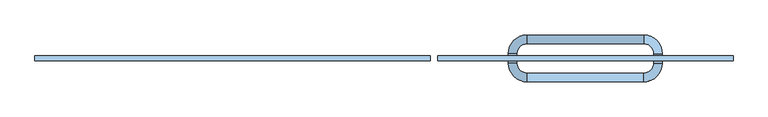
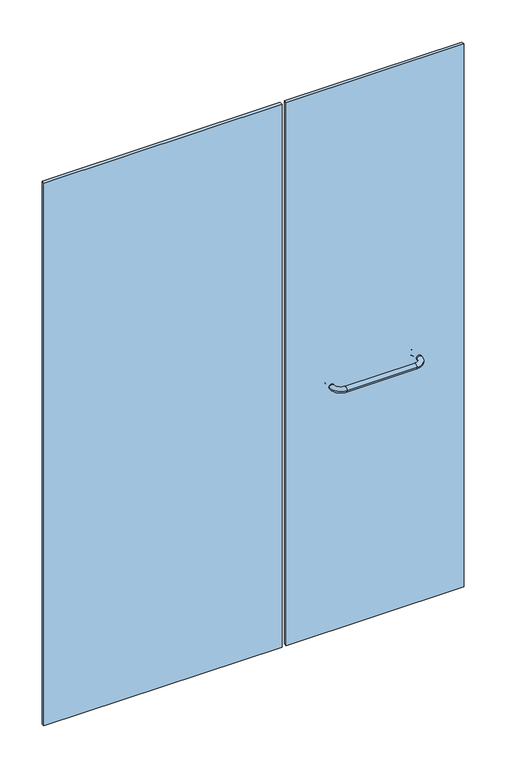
"""IFC4 building model written with IfcOpenShell, lengths in millimetres: window geometry, Baño 1 Puerta lateral - toallero simple : CA03-cancel baño-1.48."""

from ifc_helpers import new_model, si_unit, point, frame, origin, origin_with_axes, place, context, project, spatial, polyline, circle_curve, ellipse_curve, trimmed, outline, extrude, source, transform, mapped, element, save
from ifc_brep_helpers import cylinder_surface, revolved_surface, advanced_brep


def window_9f760435(model_context):
    return source(origin(), model_context, "Body", "SolidModel", [
        extrude(outline(polyline([(105.0, 5.5), (725.0, 5.5), (725.0, -5.5), (105.0, -5.5), (105.0, 5.5)])), origin_with_axes(), (0.0, 0.0, 1.0), 2000.0),
        extrude(outline(polyline([(-740.0, 5.5), (90.0, 5.5), (90.0, -5.5), (-740.0, -5.5), (-740.0, 5.5)])), origin_with_axes(), (0.0, 0.0, 1.0), 2000.0),
        advanced_brep(
        [(253.5, -10.0, 900.0), (271.5, -10.0, 900.0), (292.5, -31.0, 900.0), (292.5, -49.0, 900.0), (253.5, 10.0, 900.0), (271.5, 10.0, 900.0), (292.5, 49.0, 900.0), (292.5, 31.0, 900.0), (537.5, 49.0, 900.0), (537.5, 31.0, 900.0), (576.5, 10.0, 900.0), (558.5, 10.0, 900.0), (576.5, -10.0, 900.0), (558.5, -10.0, 900.0), (537.5, -49.0, 900.0), (537.5, -31.0, 900.0)],
        [
            (0, 1, circle_curve(frame((262.5, -10.0, 900.0), z_axis=(0.0, -1.0, 0.0), x_axis=(1.0, 0.0, 0.0)), 9.0)),
            (1, 2, circle_curve(frame((292.5, -10.0, 900.0), z_axis=(0.0, 0.0, 1.0), x_axis=(0.0, -1.0, 0.0)), 21.0)),
            (2, 3, circle_curve(frame((292.5, -40.0, 900.0), z_axis=(-1.0, 0.0, 0.0), x_axis=(0.0, 1.0, 0.0)), 9.0)),
            (3, 0, circle_curve(frame((292.5, -10.0, 900.0), z_axis=(0.0, 0.0, -1.0), x_axis=(0.0, -1.0, 0.0)), 39.0)),
            (1, 0, circle_curve(frame((262.5, -10.0, 900.0), z_axis=(0.0, -1.0, 0.0), x_axis=(1.0, 0.0, 0.0)), 9.0)),
            (3, 2, circle_curve(frame((292.5, -40.0, 900.0), z_axis=(-1.0, 0.0, 0.0), x_axis=(0.0, 1.0, 0.0)), 9.0)),
            (0, 4),
            (4, 5, circle_curve(frame((262.5, 10.0, 900.0), z_axis=(0.0, -1.0, 0.0), x_axis=(1.0, 0.0, 0.0)), 9.0)),
            (5, 1),
            (5, 4, circle_curve(frame((262.5, 10.0, 900.0), z_axis=(0.0, -1.0, 0.0), x_axis=(1.0, 0.0, 0.0)), 9.0)),
            (6, 7, circle_curve(frame((292.5, 40.0, 900.0), z_axis=(-1.0, 0.0, 0.0), x_axis=(0.0, -1.0, 0.0)), 9.0)),
            (7, 5, circle_curve(frame((292.5, 10.0, 900.0), z_axis=(0.0, 0.0, 1.0), x_axis=(-1.0, 0.0, 0.0)), 21.0)),
            (4, 6, circle_curve(frame((292.5, 10.0, 900.0), z_axis=(0.0, 0.0, -1.0), x_axis=(-1.0, 0.0, 0.0)), 39.0)),
            (7, 6, circle_curve(frame((292.5, 40.0, 900.0), z_axis=(-1.0, 0.0, 0.0), x_axis=(0.0, -1.0, 0.0)), 9.0)),
            (6, 8),
            (8, 9, circle_curve(frame((537.5, 40.0, 900.0), z_axis=(-1.0, 0.0, 0.0), x_axis=(0.0, -1.0, 0.0)), 9.0)),
            (9, 7),
            (9, 8, circle_curve(frame((537.5, 40.0, 900.0), z_axis=(-1.0, 0.0, 0.0), x_axis=(0.0, -1.0, 0.0)), 9.0)),
            (10, 11, circle_curve(frame((567.5, 10.0, 900.0), z_axis=(0.0, 1.0, 0.0), x_axis=(-1.0, 0.0, 0.0)), 9.0)),
            (11, 9, circle_curve(frame((537.5, 10.0, 900.0), z_axis=(0.0, 0.0, 1.0), x_axis=(0.0, 1.0, 0.0)), 21.0)),
            (8, 10, circle_curve(frame((537.5, 10.0, 900.0), z_axis=(0.0, 0.0, -1.0), x_axis=(0.0, 1.0, 0.0)), 39.0)),
            (11, 10, circle_curve(frame((567.5, 10.0, 900.0), z_axis=(0.0, 1.0, 0.0), x_axis=(-1.0, 0.0, 0.0)), 9.0)),
            (10, 12),
            (12, 13, circle_curve(frame((567.5, -10.0, 900.0), z_axis=(0.0, 1.0, 0.0), x_axis=(-1.0, 0.0, 0.0)), 9.0)),
            (13, 11),
            (13, 12, circle_curve(frame((567.5, -10.0, 900.0), z_axis=(0.0, 1.0, 0.0), x_axis=(-1.0, 0.0, 0.0)), 9.0)),
            (14, 15, circle_curve(frame((537.5, -40.0, 900.0), z_axis=(1.0, 0.0, 0.0), x_axis=(0.0, 1.0, 0.0)), 9.0)),
            (15, 13, circle_curve(frame((537.5, -10.0, 900.0), z_axis=(0.0, 0.0, 1.0), x_axis=(1.0, 0.0, 0.0)), 21.0)),
            (12, 14, circle_curve(frame((537.5, -10.0, 900.0), z_axis=(0.0, 0.0, -1.0), x_axis=(1.0, 0.0, 0.0)), 39.0)),
            (15, 14, circle_curve(frame((537.5, -40.0, 900.0), z_axis=(1.0, 0.0, 0.0), x_axis=(0.0, 1.0, 0.0)), 9.0)),
            (14, 3),
            (2, 15),
        ],
        [
            revolved_surface(trimmed(ellipse_curve(frame((292.5, -40.0, 900.0), z_axis=(-1.0, 0.0, 0.0), x_axis=(0.0, 1.0, 0.0)), 9.0, 9.0), [point((292.5, -31.0, 900.0))], [point((292.5, -49.0, 900.0))], True, "CARTESIAN"), (292.5, -10.0, 0.0), (0.0, 0.0, 1.0)),
            revolved_surface(trimmed(ellipse_curve(frame((292.5, -40.0, 900.0), z_axis=(-1.0, 0.0, 0.0), x_axis=(0.0, 1.0, 0.0)), 9.0, 9.0), [point((292.5, -49.0, 900.0))], [point((292.5, -31.0, 900.0))], True, "CARTESIAN"), (292.5, -10.0, 0.0), (0.0, 0.0, 1.0)),
            cylinder_surface(frame((262.5, -10.0, 900.0), z_axis=(0.0, -1.0, 0.0), x_axis=(1.0, 0.0, 0.0)), 9.0),
            revolved_surface(trimmed(ellipse_curve(frame((262.5, 10.0, 900.0), z_axis=(0.0, 1.0, 0.0), x_axis=(1.0, 0.0, 0.0)), 9.0, 9.0), [point((271.5, 10.0, 900.0))], [point((253.5, 10.0, 900.0))], True, "CARTESIAN"), (292.5, 10.0, 0.0), (0.0, 0.0, 1.0)),
            revolved_surface(trimmed(ellipse_curve(frame((262.5, 10.0, 900.0), z_axis=(0.0, 1.0, 0.0), x_axis=(1.0, 0.0, 0.0)), 9.0, 9.0), [point((253.5, 10.0, 900.0))], [point((271.5, 10.0, 900.0))], True, "CARTESIAN"), (292.5, 10.0, 0.0), (0.0, 0.0, 1.0)),
            cylinder_surface(frame((292.5, 40.0, 900.0), z_axis=(-1.0, 0.0, 0.0), x_axis=(0.0, -1.0, 0.0)), 9.0),
            revolved_surface(trimmed(ellipse_curve(frame((537.5, 40.0, 900.0), z_axis=(1.0, 0.0, 0.0), x_axis=(0.0, -1.0, 0.0)), 9.0, 9.0), [point((537.5, 31.0, 900.0))], [point((537.5, 49.0, 900.0))], True, "CARTESIAN"), (537.5, 10.0, 0.0), (0.0, 0.0, 1.0)),
            revolved_surface(trimmed(ellipse_curve(frame((537.5, 40.0, 900.0), z_axis=(1.0, 0.0, 0.0), x_axis=(0.0, -1.0, 0.0)), 9.0, 9.0), [point((537.5, 49.0, 900.0))], [point((537.5, 31.0, 900.0))], True, "CARTESIAN"), (537.5, 10.0, 0.0), (0.0, 0.0, 1.0)),
            cylinder_surface(frame((567.5, 10.0, 900.0), z_axis=(0.0, 1.0, 0.0), x_axis=(-1.0, 0.0, 0.0)), 9.0),
            revolved_surface(trimmed(ellipse_curve(frame((567.5, -10.0, 900.0), z_axis=(0.0, -1.0, 0.0), x_axis=(-1.0, 0.0, 0.0)), 9.0, 9.0), [point((558.5, -10.0, 900.0))], [point((576.5, -10.0, 900.0))], True, "CARTESIAN"), (537.5, -10.0, 0.0), (0.0, 0.0, 1.0)),
            revolved_surface(trimmed(ellipse_curve(frame((567.5, -10.0, 900.0), z_axis=(0.0, -1.0, 0.0), x_axis=(-1.0, 0.0, 0.0)), 9.0, 9.0), [point((576.5, -10.0, 900.0))], [point((558.5, -10.0, 900.0))], True, "CARTESIAN"), (537.5, -10.0, 0.0), (0.0, 0.0, 1.0)),
            cylinder_surface(frame((537.5, -40.0, 900.0), z_axis=(1.0, 0.0, 0.0), x_axis=(0.0, 1.0, 0.0)), 9.0),
        ],
        [
            (0, [[1, 2, 3, 4]]),
            (1, [[5, -4, 6, -2]]),
            (2, [[7, 8, 9, -1]]),
            (2, [[-9, 10, -7, -5]]),
            (3, [[11, 12, -8, 13]]),
            (4, [[14, -13, -10, -12]]),
            (5, [[15, 16, 17, -11]]),
            (5, [[-17, 18, -15, -14]]),
            (6, [[19, 20, -16, 21]]),
            (7, [[22, -21, -18, -20]]),
            (8, [[23, 24, 25, -19]]),
            (8, [[-25, 26, -23, -22]]),
            (9, [[27, 28, -24, 29]]),
            (10, [[30, -29, -26, -28]]),
            (11, [[31, -3, 32, -27]]),
            (11, [[-32, -6, -31, -30]]),
        ],
    ),
    ])


if __name__ == "__main__":
    model = new_model("IFC4")
    model_context = context("Model", 3, world=origin())
    ifc_project = project(units=[si_unit("LENGTHUNIT", "METRE", prefix="MILLI")], contexts=[model_context])
    site = spatial("IfcSite", under=ifc_project)
    building = spatial("IfcBuilding", under=site)
    placement = place(None, origin())
    window_shape = window_9f760435(model_context)
    element("IfcWindow", 1, ObjectType="Baño 1 Puerta lateral - toallero simple : CA03-cancel baño-1.48", at=placement, inside=building, context=model_context, shape_type="MappedRepresentation", body=[
        mapped(window_shape, transform((0.0, 0.0, 0.0), x_axis=(1.0, 0.0, 0.0), y_axis=(0.0, 1.0, 0.0), z_axis=(0.0, 0.0, 1.0))),
    ])
    save(model, "model.ifc")
